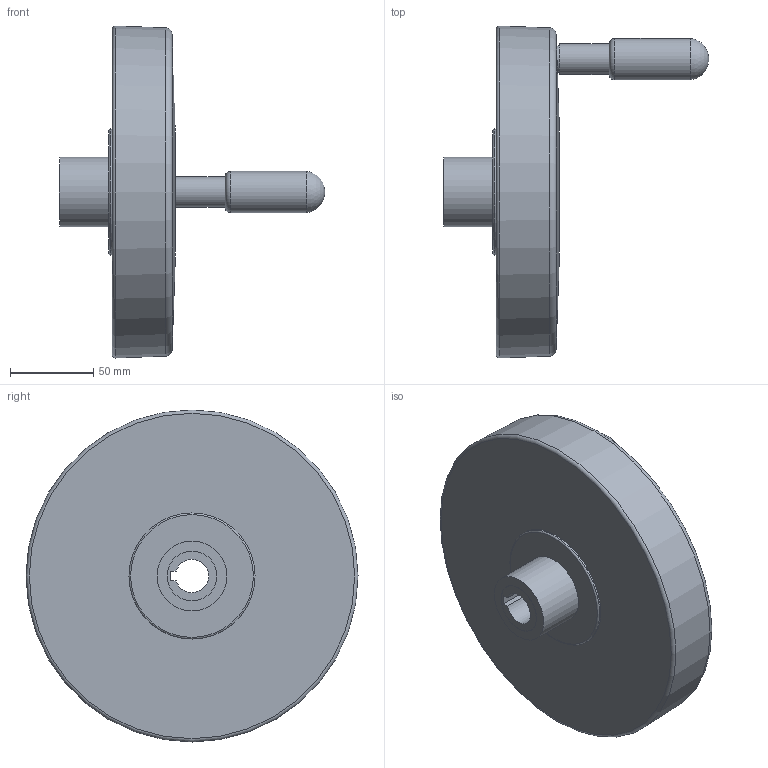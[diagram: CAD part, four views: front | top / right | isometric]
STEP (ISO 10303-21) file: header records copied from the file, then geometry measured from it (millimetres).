
FILE_DESCRIPTION( ( 'STEP AP203' ), '1' );
FILE_NAME( 'C:/Temp/Ganter_Step_05_03_2020/data/1_4/gn521_8/gn521_8_k_d/Disc handwheel GN 521.8-200-K20-D.stp', '2020-03-05T10:53:27', ( 'License CC BY-ND 4.0' ), ( 'CADENAS' ), ' ', 'PARTsolutions', ' ' );
FILE_SCHEMA( ( 'CONFIG_CONTROL_DESIGN' ) );
Length unit declared in the file: millimetre
Products named in the file (1): _Disc handwheel GN 521.8-200-K20-D
Bounding box: 160.1 x 200 x 200 mm (x, y, z)
Volume: 1097508.4 mm3; surface area: 102943.9 mm2
Topology: 1 solids, 1 shells, 28 faces, 54 edges, 34 vertices
Faces by surface type: plane 11, cylinder 9, torus 5, cone 2, sphere 1
Full cylindrical faces by diameter (mm): 16 x1, 18.5 x1, 25 x1, 30 x2, 42 x1, 68.5 x1, 76 x1
Entity records: 746 total; most frequent: CARTESIAN_POINT 182, DIRECTION 116, ORIENTED_EDGE 70, AXIS2_PLACEMENT_3D 53, EDGE_LOOP 52, FACE_OUTER_BOUND 41, EDGE_CURVE 35, VERTEX_POINT 33
